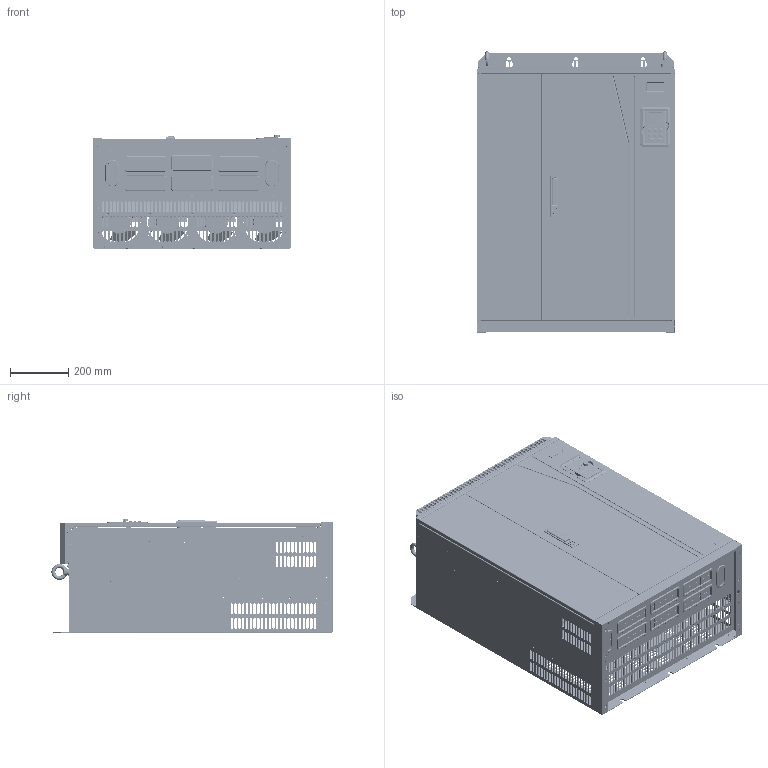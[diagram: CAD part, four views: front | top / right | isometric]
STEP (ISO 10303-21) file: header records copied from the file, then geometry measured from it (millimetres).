
FILE_DESCRIPTION((''),'2;1');
FILE_NAME('GD350-01-315G-4_ASM','2024-09-11T16:40:07',('Administrator'),(''),'CREO PARAMETRIC BY PTC INC, 2019080','CREO PARAMETRIC BY PTC INC, 2019080','');
FILE_SCHEMA(('CONFIG_CONTROL_DESIGN'));
Products named in the file (131): 80380118; S-M5-ZC; S-M4-ZC; 80380118_ASM; 80381360; BSO-M4-12-ZC; 80381360_ASM; 80380122; 80380113; S-M8-ZC; 80380113_ASM; 80380128; S-M6-ZC; 80380128_ASM; 80380120; 80380120_ASM; 80380132; 80380125; 80380125_ASM; 80380126; 80380126_ASM; 80380127; 80380127_ASM; 80380121; NZ-M12-ZC; 80380121_ASM; 80380115; 80310020; MT100-JEIDI; GB12617_4_4X10_SL; 61061125_ASM; 80384723; 80384723_ASM; 80384723SY3; 80384723SY3_ASM; CL225-1A-01; CL225-1A-02; GB896-86-5; CL225-1A-03; CL225-1A_Y_ASM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
Assembly tree (625 placements, depth 6):
  GD350-01-315G-4_ASM
    41001702_ASM
      61061125_ASM
        80380118_ASM
          80380118
          S-M5-ZC  x2
          S-M4-ZC  x16
        80381360_ASM
          80381360
          S-M4-ZC  x13
          BSO-M4-12-ZC
          S-M5-ZC  x3
        80380122
        80380113_ASM
          80380113
          S-M8-ZC  x8
          S-M5-ZC  x6
        80380128_ASM
          80380128
          S-M4-ZC  x58
          S-M6-ZC  x9
        80380120_ASM  x2
          80380120
          S-M4-ZC
        80380132
        80380125_ASM
          80380125
          S-M4-ZC  x2
        80380126_ASM  x4
          80380126
          S-M4-ZC
        80380127_ASM  x4
          80380127
          S-M8-ZC
        80380121_ASM  x2
          80380121
          NZ-M12-ZC
        80380115
        80310020  x2
        MT100-JEIDI  x2
        GB12617_4_4X10_SL  x105
      61762912_ASM
        80384723SY3_ASM
          80384723_ASM
            80384723
          80384723SY3
        CL225-1A_Y_ASM
          CL225-1A-01
          CL225-1A-02
          GB896-86-5
          CL225-1A-03
        FUJIAN
        MS818-1S_ASM
          MS818-01
          MS818-02
          MS818-03
          MS818-04
          S1C7200-LF09
          MS818-06
          MS818-07
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Bounding box: 680.7 x 965.72 x 391.6 mm (x, y, z)
Volume: 9141365.2 mm3; surface area: 9433611.7 mm2
Topology: 640 solids, 701 shells, 35250 faces, 90161 edges, 57739 vertices
Faces by surface type: plane 20973, cylinder 8935, cone 3297, torus 926, bspline 645, sphere 432, extrusion 41, revolution 1
Entity records: 504201 total; most frequent: CARTESIAN_POINT 128338, DIRECTION 77617, ORIENTED_EDGE 76980, EDGE_CURVE 38502, AXIS2_PLACEMENT_3D 26359, VECTOR 24898, LINE 24875, VERTEX_POINT 24652
